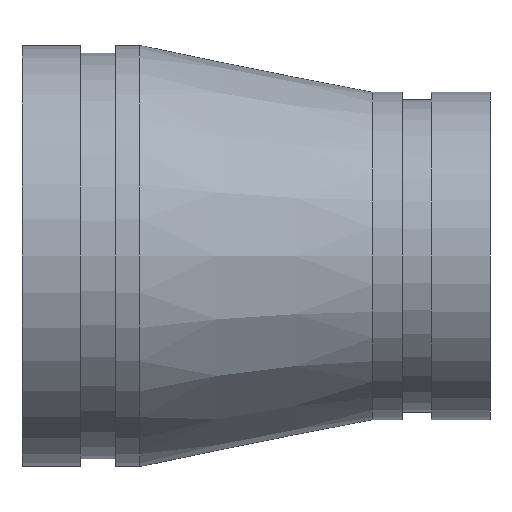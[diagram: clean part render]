
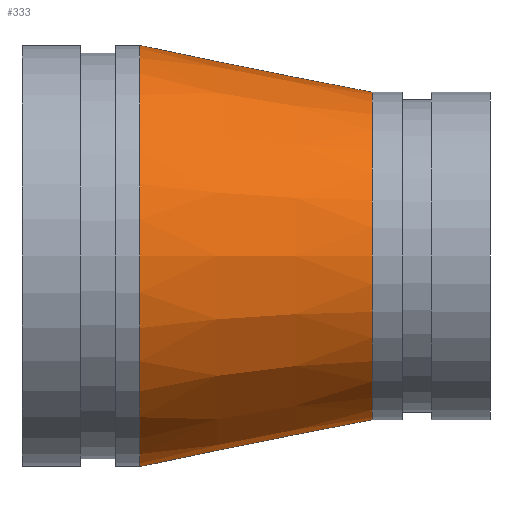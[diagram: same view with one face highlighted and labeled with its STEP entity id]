
A CAD part, front view. The second image highlights one B-rep face of the part: STEP entity #333.
In plain terms, the highlighted conical face has half-angle 11.399 degrees and reference radius 50.8 mm.
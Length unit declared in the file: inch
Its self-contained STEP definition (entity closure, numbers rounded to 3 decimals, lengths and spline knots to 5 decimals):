
#65=FACE_OUTER_BOUND('',#81,.T.);
#81=EDGE_LOOP('',(#229,#230,#231,#232,#233,#234));
#103=LINE('',#571,#113);
#113=VECTOR('',#438,2.);
#123=CIRCLE('',#370,1.75);
#124=CIRCLE('',#371,1.75);
#125=CIRCLE('',#372,2.25);
#126=CIRCLE('',#373,2.25);
#155=VERTEX_POINT('',#566);
#156=VERTEX_POINT('',#567);
#157=VERTEX_POINT('',#570);
#158=VERTEX_POINT('',#572);
#187=EDGE_CURVE('',#155,#156,#123,.T.);
#188=EDGE_CURVE('',#156,#155,#124,.T.);
#189=EDGE_CURVE('',#156,#157,#103,.T.);
#190=EDGE_CURVE('',#157,#158,#125,.T.);
#191=EDGE_CURVE('',#158,#157,#126,.T.);
#229=ORIENTED_EDGE('',*,*,#187,.F.);
#230=ORIENTED_EDGE('',*,*,#188,.F.);
#231=ORIENTED_EDGE('',*,*,#189,.T.);
#232=ORIENTED_EDGE('',*,*,#190,.T.);
#233=ORIENTED_EDGE('',*,*,#191,.T.);
#234=ORIENTED_EDGE('',*,*,#189,.F.);
#313=CONICAL_SURFACE('',#369,2.,0.199);
#333=ADVANCED_FACE('',(#65),#313,.T.);
#369=AXIS2_PLACEMENT_3D('',#565,#432,#433);
#370=AXIS2_PLACEMENT_3D('',#568,#434,#435);
#371=AXIS2_PLACEMENT_3D('',#569,#436,#437);
#372=AXIS2_PLACEMENT_3D('',#573,#439,#440);
#373=AXIS2_PLACEMENT_3D('',#574,#441,#442);
#432=DIRECTION('center_axis',(-1.,0.,0.));
#433=DIRECTION('ref_axis',(0.,1.,0.));
#434=DIRECTION('center_axis',(1.,0.,0.));
#435=DIRECTION('ref_axis',(0.,1.,0.));
#436=DIRECTION('center_axis',(1.,0.,0.));
#437=DIRECTION('ref_axis',(0.,1.,0.));
#438=DIRECTION('',(-0.98,-0.198,0.));
#439=DIRECTION('center_axis',(1.,0.,0.));
#440=DIRECTION('ref_axis',(0.,1.,0.));
#441=DIRECTION('center_axis',(1.,0.,0.));
#442=DIRECTION('ref_axis',(0.,1.,0.));
#565=CARTESIAN_POINT('Origin',(2.5,0.,0.));
#566=CARTESIAN_POINT('',(3.74,1.75,0.));
#567=CARTESIAN_POINT('',(3.74,-1.75,0.));
#568=CARTESIAN_POINT('Origin',(3.74,0.,0.));
#569=CARTESIAN_POINT('Origin',(3.74,0.,0.));
#570=CARTESIAN_POINT('',(1.26,-2.25,0.));
#571=CARTESIAN_POINT('',(2.5,-2.,0.));
#572=CARTESIAN_POINT('',(1.26,2.25,0.));
#573=CARTESIAN_POINT('Origin',(1.26,0.,0.));
#574=CARTESIAN_POINT('Origin',(1.26,0.,0.));
